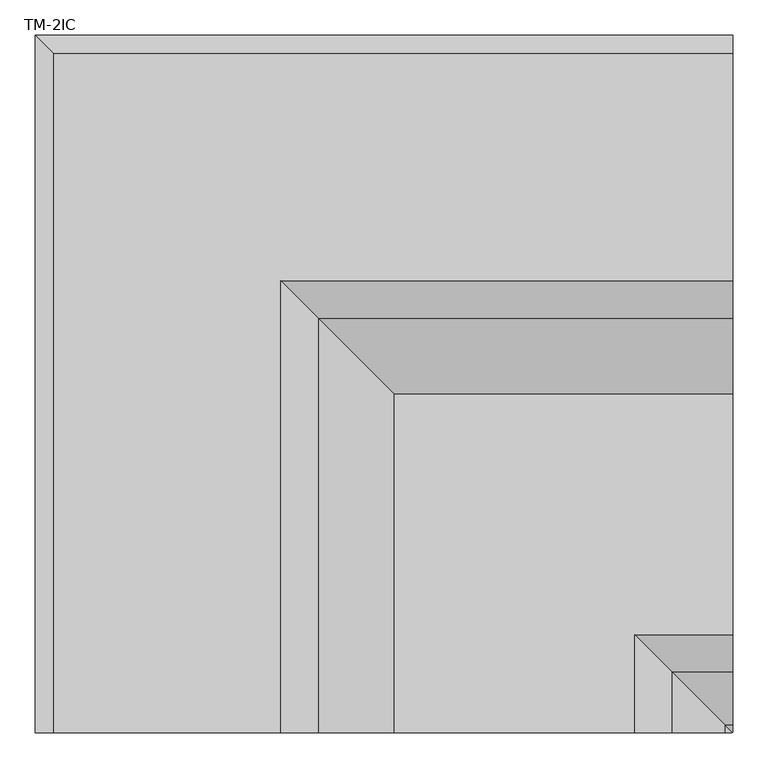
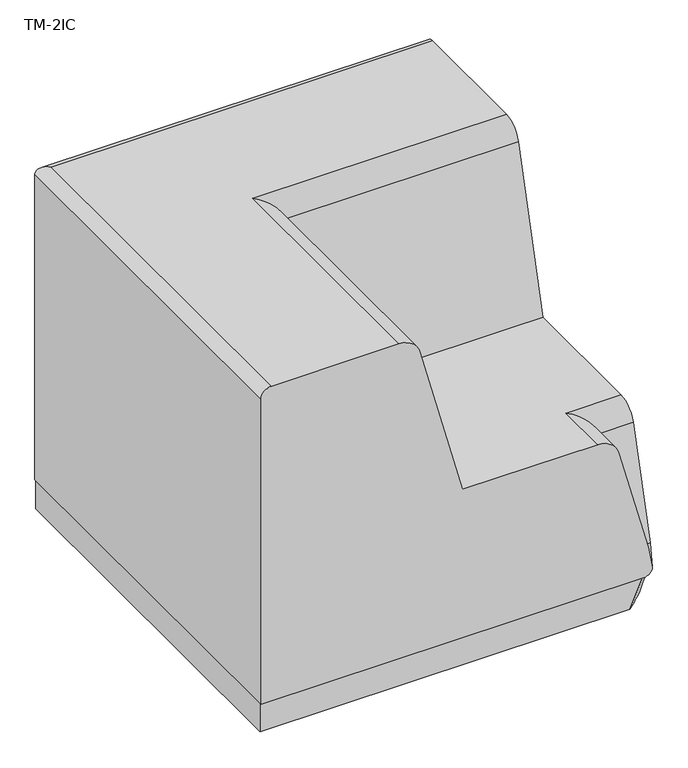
"""IFC4 building model written with IfcOpenShell, lengths in millimetres: furniture geometry, TM21C-CF_Group-Moss_Tier-2_Level-Corner_In : TM-2IC."""

from ifc_helpers import new_model, si_unit, frame, origin, place, context, project, spatial, circle_curve, ellipse_curve, source, transform, mapped, element, save
from ifc_brep_helpers import plane_surface, cylinder_surface, spline_surface, advanced_brep


def tm_2ic_fa0f0d10(model_context):
    return source(origin(), model_context, "Body", "AdvancedBrep", [
        advanced_brep(
        [(-3.406616, 985.1735232, 75.6051946), (-986.0645193, 985.1735232, 75.6051946), (-986.0645193, 5.2568469, 75.6051946), (-21.5303515, 5.2568469, 75.6051946), (-3.406616, 20.4644667, 75.6051946), (-4.8032676, 983.7732961, 0.0), (-4.8032676, 49.1569945, 0.0), (-54.0575485, 5.2493754, 0.0), (-986.0645193, 5.2493754, 0.0), (-986.0645193, 983.7732961, 0.0)],
        [
            (0, 1),
            (1, 2),
            (2, 3),
            (3, 4),
            (4, 0),
            (5, 6),
            (6, 7),
            (7, 8),
            (8, 9),
            (9, 5),
            (9, 1),
            (0, 5),
            (8, 2),
            (7, 3),
            (6, 4),
        ],
        [
            plane_surface(frame((-400.0945244, 400.2650414, 75.6051946), z_axis=(0.0, 0.0, 1.0), x_axis=(-1.0, 0.0, 0.0))),
            plane_surface(frame((-407.1586244, 405.4404675, 0.0), z_axis=(0.0, 0.0, -1.0), x_axis=(-1.0, 0.0, 0.0))),
            plane_surface(frame((-495.4338934, 983.7732961, 0.0), z_axis=(0.0, 0.9998285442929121, -0.018517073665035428), x_axis=(-1.0, 0.0, 0.0))),
            plane_surface(frame((-986.0645193, 494.5113357, 0.0), z_axis=(-1.0, 0.0, 0.0), x_axis=(0.0, -1.0, 0.0))),
            plane_surface(frame((-520.0610339, 5.2493754, 0.0), z_axis=(0.0, -0.9999999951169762, 9.882331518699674e-05), x_axis=(1.0, 0.0, 0.0))),
            spline_surface(1, 1, [[(-54.0575485, 5.2493754, 0.0), (-21.5303515, 5.2568469, 75.6051946)], [(-4.8032676, 49.1569945, 0.0), (-3.406616, 20.4644667, 75.6051946)]], [2, 2], [2, 2], [0.0, 1.0], [0.0, 1.0]),
            plane_surface(frame((-4.8032676, 516.4651453, 0.0), z_axis=(0.9998294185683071, 0.0, -0.01846980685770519), x_axis=(0.0, 1.0, 0.0))),
        ],
        [
            (0, [[1, 2, 3, 4, 5]]),
            (1, [[6, 7, 8, 9, 10]]),
            (2, [[-10, 11, -1, 12]]),
            (3, [[-9, 13, -2, -11]]),
            (4, [[-8, 14, -3, -13]]),
            (5, [[-7, 15, -4, -14]]),
            (6, [[-6, -12, -5, -15]]),
        ],
    ),
        advanced_brep(
        [(-11.2667788, 0.0, 153.7624342), (-85.2845167, 0.0, 429.7596026), (-138.6044472, 0.0, 470.6641871), (-478.7838657, 0.0, 470.6641871), (-585.9252085, 0.0, 873.4061484), (-639.2735817, 0.0, 914.4177798), (-960.8043941, 0.0, 914.4177798), (-986.7837328, 0.0, 888.4384411), (-986.7837328, 0.0, 76.2), (-23.5752551, 0.0, 76.2), (-10.4396687, 0.0, 79.8602583), (-0.8310155, 0.0, 95.6885473), (0.0, 11.2560699, 153.7624342), (0.0, 0.8203066, 95.6885473), (0.0, 10.4289598, 79.8602583), (0.0, 23.5645463, 76.2), (0.0, 986.7730239, 76.2), (0.0, 986.7730239, 888.4384411), (0.0, 960.7936852, 914.4177798), (0.0, 639.2628728, 914.4177798), (0.0, 585.9144997, 873.4061484), (0.0, 478.7731568, 470.6641871), (0.0, 138.5937383, 470.6641871), (0.0, 85.2738079, 429.7596026), (-11.2667788, 11.2560699, 153.7624342), (-85.2845167, 85.2738079, 429.7596026), (-138.6044472, 138.5937383, 470.6641871), (-478.7838657, 478.7731568, 470.6641871), (-585.9252085, 585.9144997, 873.4061484), (-639.2735817, 639.2628728, 914.4177798), (-960.8043941, 960.7936852, 914.4177798), (-986.7837328, 986.7730239, 888.4384411), (-986.7837328, 986.7730239, 76.2), (-23.5752551, 23.5645463, 76.2), (-10.4396687, 10.4289598, 79.8602583), (-0.8310155, 0.8203066, 95.6885473)],
        [
            (0, 1),
            (1, 2, circle_curve(frame((-138.6044472, 0.0, 415.4601058), z_axis=(0.0, -1.0, 0.0), x_axis=(-1.0, 0.0, 0.0)), 55.2040813)),
            (2, 3),
            (3, 4),
            (4, 5, circle_curve(frame((-639.2735817, 0.0, 859.2138941), z_axis=(0.0, -1.0, 0.0), x_axis=(-1.0, 0.0, 0.0)), 55.2038857)),
            (5, 6),
            (6, 7, circle_curve(frame((-960.8043941, 0.0, 888.4384411), z_axis=(0.0, -1.0, 0.0), x_axis=(-1.0, 0.0, 0.0)), 25.9793387)),
            (7, 8),
            (8, 9),
            (9, 10, circle_curve(frame((-23.5752551, 0.0, 101.6), z_axis=(0.0, -1.0, 0.0), x_axis=(-1.0, 0.0, 0.0)), 25.4)),
            (10, 11, circle_curve(frame((-20.7745368, 0.0, 96.9647374), z_axis=(0.0, -1.0, 0.0), x_axis=(-1.0, 0.0, 0.0)), 19.9843114)),
            (11, 0, circle_curve(frame((-350.0203653, 0.0, 62.9144942), z_axis=(0.0, -1.0, 0.0), x_axis=(-1.0, 0.0, 0.0)), 350.7240234)),
            (12, 13, circle_curve(frame((0.0, 350.0096565, 62.9144942), z_axis=(1.0, 0.0, 0.0), x_axis=(0.0, 1.0, 0.0)), 350.7240234)),
            (13, 14, circle_curve(frame((0.0, 20.7638279, 96.9647374), z_axis=(1.0, 0.0, 0.0), x_axis=(0.0, 1.0, 0.0)), 19.9843114)),
            (14, 15, circle_curve(frame((0.0, 23.5645463, 101.6), z_axis=(1.0, 0.0, 0.0), x_axis=(0.0, 1.0, 0.0)), 25.4)),
            (15, 16),
            (16, 17),
            (17, 18, circle_curve(frame((0.0, 960.7936852, 888.4384411), z_axis=(1.0, 0.0, 0.0), x_axis=(0.0, 1.0, 0.0)), 25.9793387)),
            (18, 19),
            (19, 20, circle_curve(frame((0.0, 639.2628728, 859.2138941), z_axis=(1.0, 0.0, 0.0), x_axis=(0.0, 1.0, 0.0)), 55.2038857)),
            (20, 21),
            (21, 22),
            (22, 23, circle_curve(frame((0.0, 138.5937383, 415.4601058), z_axis=(1.0, 0.0, 0.0), x_axis=(0.0, 1.0, 0.0)), 55.2040813)),
            (23, 12),
            (0, 24),
            (24, 25),
            (25, 1),
            (25, 26, ellipse_curve(frame((-138.6044472, 138.5937383, 415.4601058), z_axis=(-0.707106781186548, -0.7071067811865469, 0.0), x_axis=(0.7071067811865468, -0.7071067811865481, 0.0)), 78.0703605, 55.2040813)),
            (26, 2),
            (26, 22),
            (21, 27),
            (27, 3),
            (27, 28),
            (28, 4),
            (28, 29, ellipse_curve(frame((-639.2735817, 639.2628728, 859.2138941), z_axis=(-0.707106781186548, -0.7071067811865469, 0.0), x_axis=(0.7071067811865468, -0.7071067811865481, 0.0)), 78.0700839, 55.2038857)),
            (29, 5),
            (29, 19),
            (18, 30),
            (30, 6),
            (30, 31, ellipse_curve(frame((-960.8043941, 960.7936852, 888.4384411), z_axis=(-0.707106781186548, -0.7071067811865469, 0.0), x_axis=(0.7071067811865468, -0.7071067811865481, 0.0)), 36.7403332, 25.9793387)),
            (31, 7),
            (31, 32),
            (32, 8),
            (32, 16),
            (15, 33),
            (33, 9),
            (33, 34, ellipse_curve(frame((-23.5752551, 23.5645463, 101.6), z_axis=(-0.707106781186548, -0.7071067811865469, 0.0), x_axis=(0.7071067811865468, -0.7071067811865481, 0.0)), 35.9210245, 25.4)),
            (34, 10),
            (34, 35, ellipse_curve(frame((-20.7745368, 20.7638279, 96.9647374), z_axis=(-0.707106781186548, -0.7071067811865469, 0.0), x_axis=(0.7071067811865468, -0.7071067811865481, 0.0)), 28.2620843, 19.9843114)),
            (35, 11),
            (35, 24, ellipse_curve(frame((-350.0203653, 350.0096565, 62.9144942), z_axis=(-0.707106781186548, -0.7071067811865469, 0.0), x_axis=(0.7071067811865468, -0.7071067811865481, 0.0)), 495.9986706, 350.7240234)),
            (24, 12),
            (23, 25),
            (20, 28),
            (17, 31),
            (14, 34),
            (13, 35),
        ],
        [
            plane_surface(frame((-0.8310155, 0.0, 0.0), z_axis=(0.0, -1.0, 0.0), x_axis=(0.0, 0.0, 1.0))),
            plane_surface(frame((0.0, 0.8203066, 0.0), z_axis=(1.0, 0.0, 0.0), x_axis=(0.0, 0.0, 1.0))),
            plane_surface(frame((-11.2667788, 0.0, 153.7624342), z_axis=(0.9658693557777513, 0.0, 0.2590297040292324), x_axis=(0.0, 1.0, 0.0))),
            cylinder_surface(frame((-138.6044472, 0.0, 415.4601058), z_axis=(0.0, -1.0, 0.0), x_axis=(-1.0, 0.0, 0.0)), 55.2040813),
            plane_surface(frame((-138.6044472, 0.0, 470.6641871), z_axis=(0.0, 0.0, 1.0), x_axis=(0.0, 1.0, 0.0))),
            plane_surface(frame((-478.7838657, 0.0, 470.6641871), z_axis=(0.9663880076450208, 0.0, 0.25708795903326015), x_axis=(0.0, 1.0, 0.0))),
            cylinder_surface(frame((-639.2735817, 0.0, 859.2138941), z_axis=(0.0, -1.0, 0.0), x_axis=(-1.0, 0.0, 0.0)), 55.2038857),
            plane_surface(frame((-639.2735817, 0.0, 914.4177798), z_axis=(0.0, 0.0, 1.0), x_axis=(0.0, 1.0, 0.0))),
            cylinder_surface(frame((-960.8043941, 0.0, 888.4384411), z_axis=(0.0, -1.0, 0.0), x_axis=(-1.0, 0.0, 0.0)), 25.9793387),
            plane_surface(frame((-986.7837328, 0.0, 888.4384411), z_axis=(-1.0, 0.0, 0.0), x_axis=(0.0, 1.0, 0.0))),
            plane_surface(frame((-986.7837328, 0.0, 76.2), z_axis=(0.0, 0.0, -1.0), x_axis=(0.0, 1.0, 0.0))),
            cylinder_surface(frame((-23.5752551, 0.0, 101.6), z_axis=(0.0, -1.0, 0.0), x_axis=(-1.0, 0.0, 0.0)), 25.4),
            cylinder_surface(frame((-20.7745368, 0.0, 96.9647374), z_axis=(0.0, -1.0, 0.0), x_axis=(-1.0, 0.0, 0.0)), 19.9843114),
            cylinder_surface(frame((-350.0203653, 0.0, 62.9144942), z_axis=(0.0, -1.0, 0.0), x_axis=(-1.0, 0.0, 0.0)), 350.7240234),
            plane_surface(frame((-11.2667788, 11.2560699, 153.7624342), z_axis=(0.0, -0.9658693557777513, 0.2590297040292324), x_axis=(1.0, 0.0, 0.0))),
            cylinder_surface(frame((-0.8310155, 138.5937383, 415.4601058), z_axis=(-1.0, 0.0, 0.0), x_axis=(0.0, 1.0, 0.0)), 55.2040813),
            plane_surface(frame((-478.7838657, 478.7731568, 470.6641871), z_axis=(0.0, -0.9663880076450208, 0.25708795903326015), x_axis=(1.0, 0.0, 0.0))),
            cylinder_surface(frame((-0.8310155, 639.2628728, 859.2138941), z_axis=(-1.0, 0.0, 0.0), x_axis=(0.0, 1.0, 0.0)), 55.2038857),
            cylinder_surface(frame((-0.8310155, 960.7936852, 888.4384411), z_axis=(-1.0, 0.0, 0.0), x_axis=(0.0, 1.0, 0.0)), 25.9793387),
            plane_surface(frame((-986.7837328, 986.7730239, 888.4384411), z_axis=(0.0, 1.0, 0.0), x_axis=(1.0, 0.0, 0.0))),
            cylinder_surface(frame((-0.8310155, 23.5645463, 101.6), z_axis=(-1.0, 0.0, 0.0), x_axis=(0.0, 1.0, 0.0)), 25.4),
            cylinder_surface(frame((-0.8310155, 20.7638279, 96.9647374), z_axis=(-1.0, 0.0, 0.0), x_axis=(0.0, 1.0, 0.0)), 19.9843114),
            cylinder_surface(frame((-0.8310155, 350.0096565, 62.9144942), z_axis=(-1.0, 0.0, 0.0), x_axis=(0.0, 1.0, 0.0)), 350.7240234),
        ],
        [
            (0, [[1, 2, 3, 4, 5, 6, 7, 8, 9, 10, 11, 12]]),
            (1, [[13, 14, 15, 16, 17, 18, 19, 20, 21, 22, 23, 24]]),
            (2, [[-1, 25, 26, 27]]),
            (3, [[-2, -27, 28, 29]]),
            (4, [[-3, -29, 30, -22, 31, 32]]),
            (5, [[-4, -32, 33, 34]]),
            (6, [[-5, -34, 35, 36]]),
            (7, [[-6, -36, 37, -19, 38, 39]]),
            (8, [[-7, -39, 40, 41]]),
            (9, [[-8, -41, 42, 43]]),
            (10, [[-9, -43, 44, -16, 45, 46]]),
            (11, [[-10, -46, 47, 48]]),
            (12, [[-11, -48, 49, 50]]),
            (13, [[-12, -50, 51, -25]]),
            (14, [[-26, 52, -24, 53]]),
            (15, [[-28, -53, -23, -30]]),
            (16, [[-33, -31, -21, 54]]),
            (17, [[-35, -54, -20, -37]]),
            (18, [[-40, -38, -18, 55]]),
            (19, [[-42, -55, -17, -44]]),
            (20, [[-47, -45, -15, 56]]),
            (21, [[-49, -56, -14, 57]]),
            (22, [[-51, -57, -13, -52]]),
        ],
    ),
    ])


if __name__ == "__main__":
    model = new_model("IFC4")
    model_context = context("Model", 3, world=origin())
    ifc_project = project(units=[si_unit("LENGTHUNIT", "METRE", prefix="MILLI")], contexts=[model_context])
    site = spatial("IfcSite", under=ifc_project)
    building = spatial("IfcBuilding", under=site)
    placement = place(None, origin())
    tm_2ic_shape = tm_2ic_fa0f0d10(model_context)
    element("IfcFurniture", 1, ObjectType="TM21C-CF_Group-Moss_Tier-2_Level-Corner_In : TM-2IC", at=placement, inside=building, context=model_context, shape_type="MappedRepresentation", body=[
        mapped(tm_2ic_shape, transform((0.0, 0.0, 0.0), x_axis=(1.0, 0.0, 0.0), y_axis=(0.0, 1.0, 0.0), z_axis=(0.0, 0.0, 1.0))),
    ])
    save(model, "model.ifc")
